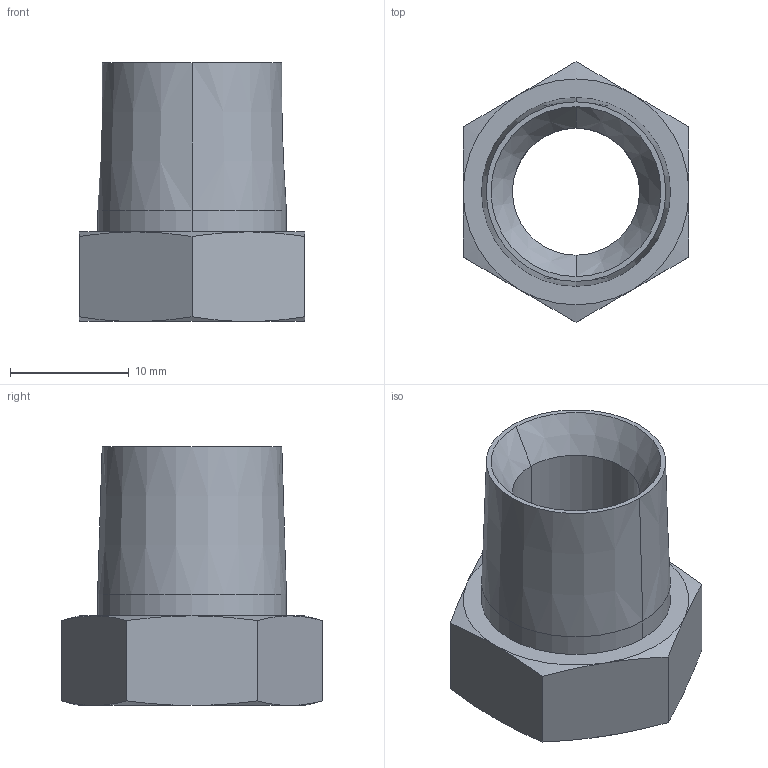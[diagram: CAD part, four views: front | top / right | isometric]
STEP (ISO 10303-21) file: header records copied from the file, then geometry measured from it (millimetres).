
FILE_DESCRIPTION((''),'2;1');
FILE_NAME('3-8_X_1-4_PTR-S','2011-06-29T',('chad.steele'),(''),'PRO/ENGINEER BY PARAMETRIC TECHNOLOGY CORPORATION, 2010040','PRO/ENGINEER BY PARAMETRIC TECHNOLOGY CORPORATION, 2010040','');
FILE_SCHEMA(('CONFIG_CONTROL_DESIGN'));
Length unit declared in the file: inch
Products named in the file (1): 3-8_X_1-4_PTR-S
Bounding box: 19.05 x 22 x 21.84 mm (x, y, z)
Volume: 2784.3 mm3; surface area: 2343.7 mm2
Topology: 1 solids, 1 shells, 32 faces, 72 edges, 44 vertices
Faces by surface type: cone 18, plane 10, cylinder 4
Entity records: 1025 total; most frequent: CARTESIAN_POINT 285, DIRECTION 144, ORIENTED_EDGE 144, EDGE_CURVE 72, AXIS2_PLACEMENT_3D 64, VERTEX_POINT 44, EDGE_LOOP 36, FACE_OUTER_BOUND 32
